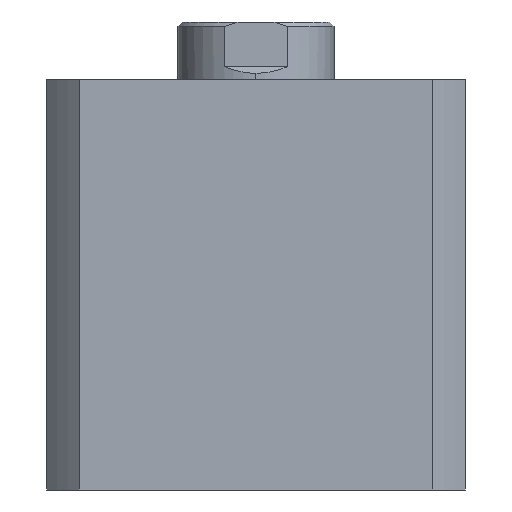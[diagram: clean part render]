
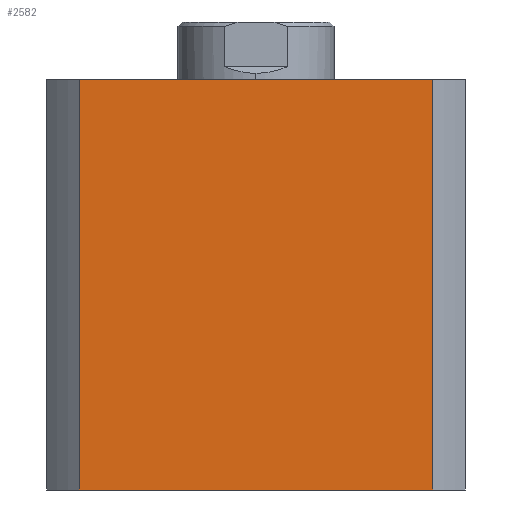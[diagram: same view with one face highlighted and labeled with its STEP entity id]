
A CAD part, left-side view. The second image highlights one B-rep face of the part: STEP entity #2582.
In plain terms, the highlighted planar face has unit normal (-1, 0, 0).
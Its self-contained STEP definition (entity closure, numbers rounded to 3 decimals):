
#143 = EDGE_CURVE ( 'NONE', #1641, #1642, #999, .T. ) ;
#644 = FACE_OUTER_BOUND ( 'NONE', #1875, .T. ) ;
#898 = AXIS2_PLACEMENT_3D ( 'NONE', #5060, #5068, #5069 ) ;
#999 = LINE ( 'NONE', #2386, #1001 ) ;
#1001 = VECTOR ( 'NONE', #2385, 1000. ) ;
#1242 = LINE ( 'NONE', #3155, #1248 ) ;
#1246 = LINE ( 'NONE', #3154, #1252 ) ;
#1247 = LINE ( 'NONE', #3159, #1250 ) ;
#1248 = VECTOR ( 'NONE', #3151, 1000. ) ;
#1250 = VECTOR ( 'NONE', #3161, 1000. ) ;
#1252 = VECTOR ( 'NONE', #3162, 1000. ) ;
#1641 = VERTEX_POINT ( 'NONE', #4226 ) ;
#1642 = VERTEX_POINT ( 'NONE', #4227 ) ;
#1690 = VERTEX_POINT ( 'NONE', #4275 ) ;
#1695 = VERTEX_POINT ( 'NONE', #4280 ) ;
#1807 = EDGE_CURVE ( 'NONE', #1642, #1690, #1242, .T. ) ;
#1808 = EDGE_CURVE ( 'NONE', #1695, #1690, #1247, .T. ) ;
#1809 = EDGE_CURVE ( 'NONE', #1641, #1695, #1246, .T. ) ;
#1875 = EDGE_LOOP ( 'NONE', ( #1912, #1913, #1914, #1915 ) ) ;
#1912 = ORIENTED_EDGE ( 'NONE', *, *, #1808, .T. ) ;
#1913 = ORIENTED_EDGE ( 'NONE', *, *, #1807, .F. ) ;
#1914 = ORIENTED_EDGE ( 'NONE', *, *, #143, .F. ) ;
#1915 = ORIENTED_EDGE ( 'NONE', *, *, #1809, .T. ) ;
#2385 = DIRECTION ( 'NONE',  ( 0., -1., 0. ) ) ;
#2386 = CARTESIAN_POINT ( 'NONE',  ( -47., 0., 92. ) ) ;
#2582 = ADVANCED_FACE ( 'NONE', ( #644 ), #5065, .F. ) ;
#3151 = DIRECTION ( 'NONE',  ( 0., 0., -1. ) ) ;
#3154 = CARTESIAN_POINT ( 'NONE',  ( -47., 39.664, 92. ) ) ;
#3155 = CARTESIAN_POINT ( 'NONE',  ( -47., -39.664, 92. ) ) ;
#3159 = CARTESIAN_POINT ( 'NONE',  ( -47., 0., 0. ) ) ;
#3161 = DIRECTION ( 'NONE',  ( 0., -1., 0. ) ) ;
#3162 = DIRECTION ( 'NONE',  ( 0., 0., -1. ) ) ;
#4226 = CARTESIAN_POINT ( 'NONE',  ( -47., 39.664, 92. ) ) ;
#4227 = CARTESIAN_POINT ( 'NONE',  ( -47., -39.664, 92. ) ) ;
#4275 = CARTESIAN_POINT ( 'NONE',  ( -47., -39.664, 0. ) ) ;
#4280 = CARTESIAN_POINT ( 'NONE',  ( -47., 39.664, 0. ) ) ;
#5060 = CARTESIAN_POINT ( 'NONE',  ( -47., 0., 92. ) ) ;
#5065 = PLANE ( 'NONE',  #898 ) ;
#5068 = DIRECTION ( 'NONE',  ( 1., 0., 0. ) ) ;
#5069 = DIRECTION ( 'NONE',  ( 0., 0., -1. ) ) ;
